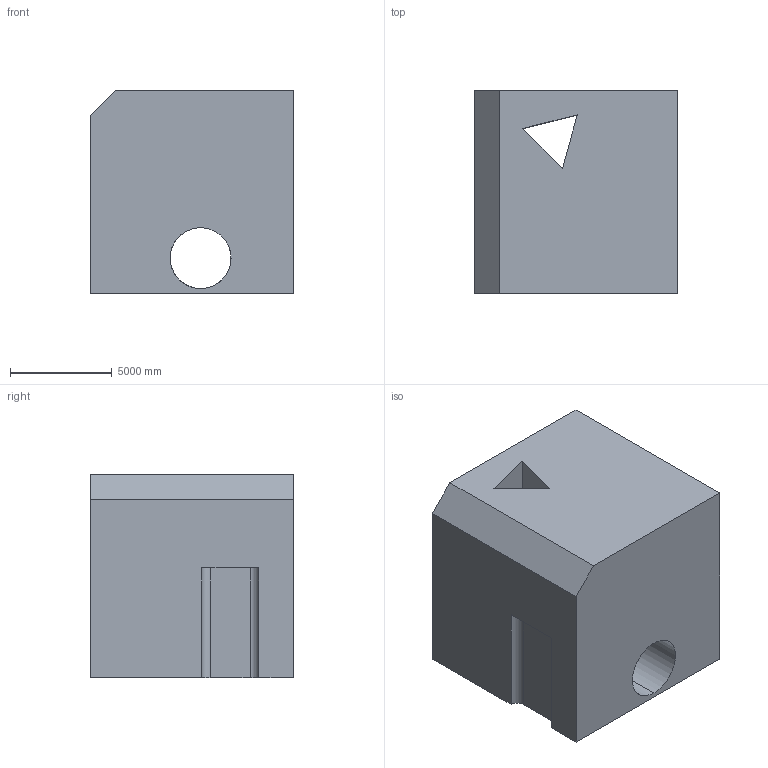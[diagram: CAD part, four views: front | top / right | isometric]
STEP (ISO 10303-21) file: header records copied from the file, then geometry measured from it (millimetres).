
FILE_DESCRIPTION (( 'STEP AP203' ), '1' );
FILE_NAME ('143.STEP', '2022-09-06T14:38:49', ( 'user' ), ( '' ), 'SwSTEP 2.0', 'SolidWorks 2021', '' );
FILE_SCHEMA (( 'CONFIG_CONTROL_DESIGN' ));
Length unit declared in the file: centimetre
Products named in the file (1): 143
Bounding box: 10000 x 10000 x 10000 mm (x, y, z)
Volume: 873399715485.8 mm3; surface area: 733310184.2 mm2
Topology: 1 solids, 1 shells, 21 faces, 63 edges, 42 vertices
Faces by surface type: plane 16, cylinder 5
Entity records: 944 total; most frequent: CARTESIAN_POINT 288, ORIENTED_EDGE 126, DIRECTION 113, EDGE_CURVE 63, VECTOR 47, LINE 47, VERTEX_POINT 42, AXIS2_PLACEMENT_3D 33
